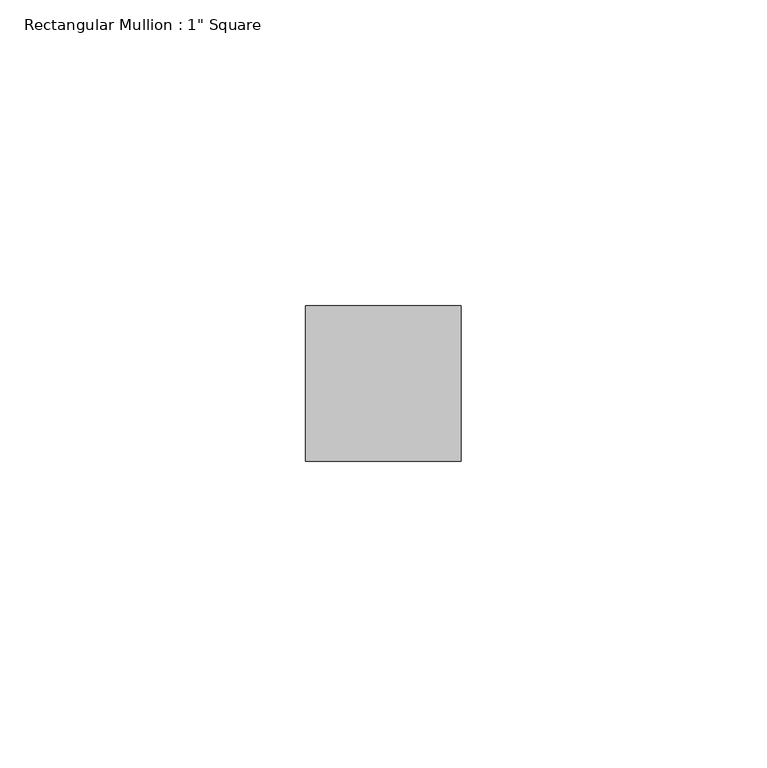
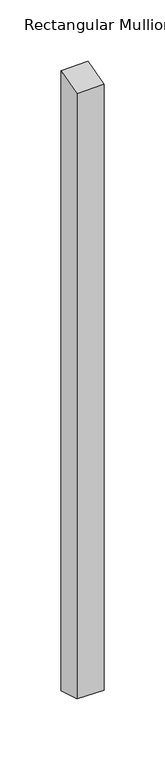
"""IFC4 building model written with IfcOpenShell, lengths in millimetres: member geometry."""

from ifc_helpers import new_model, si_unit, origin, place, context, project, spatial, faceted_brep, source, transform, mapped, element, save


def member_a479caf8(model_context):
    return source(origin(), model_context, "Body", "Brep", [
        faceted_brep([(-25.4, 12.7, 3.2542993), (0.0, 12.7, 3.7016875), (0.0, 12.7, -613.3016875), (-25.4, 12.7, -612.8542993), (-25.4, -12.7, -4.1490757), (-25.4, -12.7, -605.4509243), (0.0, -12.7, -3.7016875), (0.0, -12.7, -605.8983125)], [[[0, 1, 2, 3]], [[4, 0, 3, 5]], [[6, 4, 5, 7]], [[1, 6, 7, 2]], [[1, 0, 4, 6]], [[2, 7, 5, 3]]]),
    ])


if __name__ == "__main__":
    model = new_model("IFC4")
    model_context = context("Model", 3, world=origin())
    ifc_project = project(units=[si_unit("LENGTHUNIT", "METRE", prefix="MILLI")], contexts=[model_context])
    site = spatial("IfcSite", under=ifc_project)
    building = spatial("IfcBuilding", under=site)
    placement = place(None, origin())
    member_shape = member_a479caf8(model_context)
    element("IfcMember", 1, ObjectType="Rectangular Mullion : 1\" Square", at=placement, inside=building, context=model_context, shape_type="MappedRepresentation", body=[
        mapped(member_shape, transform((0.0, 0.0, 0.0), x_axis=(1.0, 0.0, 0.0), y_axis=(0.0, 1.0, 0.0), z_axis=(0.0, 0.0, 1.0))),
    ])
    save(model, "model.ifc")
